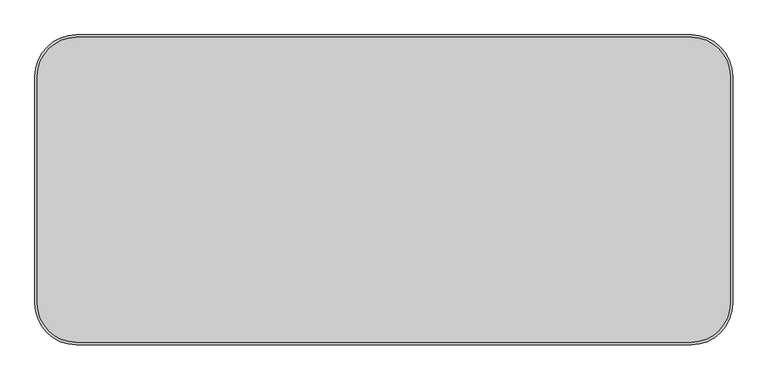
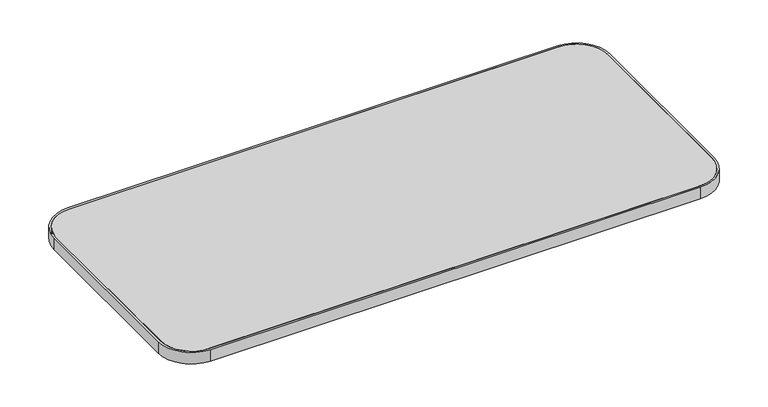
"""IFC4 building model written with IfcOpenShell, lengths in millimetres: furniture geometry, Steelcase - Answer Solution - Universal Table - Straight - 3mm Edge : 24D x 54W."""

from ifc_helpers import new_model, si_unit, point, frame, frame_2d, origin, place, context, project, spatial, polyline, circle_curve, trimmed, segment, composite_curve, outline, extrude, source, transform, mapped, element, save


def furniture_7c6aa1f0(model_context):
    return source(origin(), model_context, "Body", "SweptSolid", [
        extrude(outline(composite_curve([segment(polyline([(5.08, -528.32), (5.08, -81.28)]), True, "CONTINUOUS"), segment(trimmed(circle_curve(frame_2d((81.28, -81.28)), 76.2), [point((5.08, -81.28))], [point((81.28, -5.08))], False, "CARTESIAN"), True, "CONTINUOUS"), segment(polyline([(81.28, -5.08), (1290.32, -5.08)]), True, "CONTINUOUS"), segment(trimmed(circle_curve(frame_2d((1290.32, -81.28)), 76.2), [point((1290.32, -5.08))], [point((1366.52, -81.28))], False, "CARTESIAN"), True, "CONTINUOUS"), segment(polyline([(1366.52, -81.28), (1366.52, -528.32)]), True, "CONTINUOUS"), segment(trimmed(circle_curve(frame_2d((1290.32, -528.32)), 76.2), [point((1366.52, -528.32))], [point((1290.32, -604.52))], False, "CARTESIAN"), True, "CONTINUOUS"), segment(polyline([(1290.32, -604.52), (81.28, -604.52)]), True, "CONTINUOUS"), segment(trimmed(circle_curve(frame_2d((81.28, -528.32)), 76.2), [point((81.28, -604.52))], [point((5.08, -528.32))], False, "CARTESIAN"), True, "CONTINUOUS")], self_intersect=False)), frame((0.0, 0.0, 668.274), z_axis=(0.0, 0.0, 1.0), x_axis=(1.0, 0.0, 0.0)), (0.0, 0.0, 1.0), 30.0990349),
        extrude(outline(composite_curve([segment(polyline([(81.28, 0.0), (1290.32, 0.0)]), True, "CONTINUOUS"), segment(trimmed(circle_curve(frame_2d((1290.32, -81.28)), 81.28), [point((1290.32, 0.0))], [point((1371.6, -81.28))], False, "CARTESIAN"), True, "CONTINUOUS"), segment(polyline([(1371.6, -81.28), (1371.6, -528.32)]), True, "CONTINUOUS"), segment(trimmed(circle_curve(frame_2d((1290.32, -528.32)), 81.28), [point((1371.6, -528.32))], [point((1290.32, -609.6))], False, "CARTESIAN"), True, "CONTINUOUS"), segment(polyline([(1290.32, -609.6), (81.28, -609.6)]), True, "CONTINUOUS"), segment(trimmed(circle_curve(frame_2d((81.28, -528.32)), 81.28), [point((81.28, -609.6))], [point((0.0, -528.32))], False, "CARTESIAN"), True, "CONTINUOUS"), segment(polyline([(0.0, -528.32), (0.0, -81.28)]), True, "CONTINUOUS"), segment(trimmed(circle_curve(frame_2d((81.28, -81.28)), 81.28), [point((0.0, -81.28))], [point((81.28, 0.0))], False, "CARTESIAN"), True, "CONTINUOUS")], self_intersect=False), holes=[composite_curve([segment(trimmed(circle_curve(frame_2d((81.28, -81.28)), 76.2), [point((81.28, -5.08))], [point((5.08, -81.28))], True, "CARTESIAN"), True, "CONTINUOUS"), segment(polyline([(5.08, -81.28), (5.08, -528.32)]), True, "CONTINUOUS"), segment(trimmed(circle_curve(frame_2d((81.28, -528.32)), 76.2), [point((5.08, -528.32))], [point((81.28, -604.52))], True, "CARTESIAN"), True, "CONTINUOUS"), segment(polyline([(81.28, -604.52), (1290.32, -604.52)]), True, "CONTINUOUS"), segment(trimmed(circle_curve(frame_2d((1290.32, -528.32)), 76.2), [point((1290.32, -604.52))], [point((1366.52, -528.32))], True, "CARTESIAN"), True, "CONTINUOUS"), segment(polyline([(1366.52, -528.32), (1366.52, -81.28)]), True, "CONTINUOUS"), segment(trimmed(circle_curve(frame_2d((1290.32, -81.28)), 76.2), [point((1366.52, -81.28))], [point((1290.32, -5.08))], True, "CARTESIAN"), True, "CONTINUOUS"), segment(polyline([(1290.32, -5.08), (81.28, -5.08)]), True, "CONTINUOUS")], self_intersect=False)]), frame((0.0, 0.0, 668.274), z_axis=(0.0, 0.0, 1.0), x_axis=(1.0, 0.0, 0.0)), (0.0, 0.0, 1.0), 30.0990349),
    ])


if __name__ == "__main__":
    model = new_model("IFC4")
    model_context = context("Model", 3, world=origin())
    ifc_project = project(units=[si_unit("LENGTHUNIT", "METRE", prefix="MILLI")], contexts=[model_context])
    site = spatial("IfcSite", under=ifc_project)
    building = spatial("IfcBuilding", under=site)
    placement = place(None, origin())
    furniture_shape = furniture_7c6aa1f0(model_context)
    element("IfcFurniture", 1, ObjectType="Steelcase - Answer Solution - Universal Table - Straight - 3mm Edge : 24D x 54W", at=placement, inside=building, context=model_context, shape_type="MappedRepresentation", body=[
        mapped(furniture_shape, transform((0.0, 0.0, 0.0), x_axis=(1.0, 0.0, 0.0), y_axis=(0.0, 1.0, 0.0), z_axis=(0.0, 0.0, 1.0))),
    ])
    save(model, "model.ifc")
